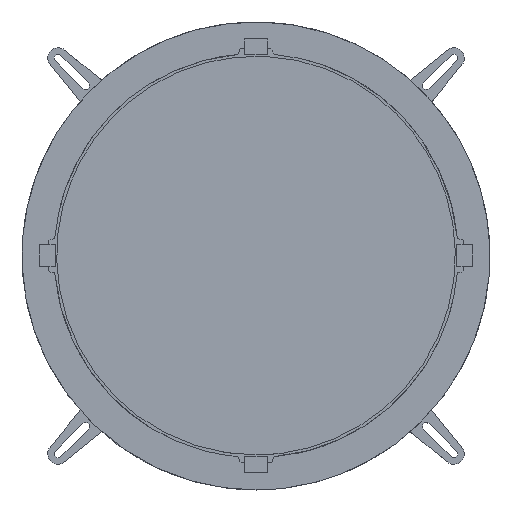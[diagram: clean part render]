
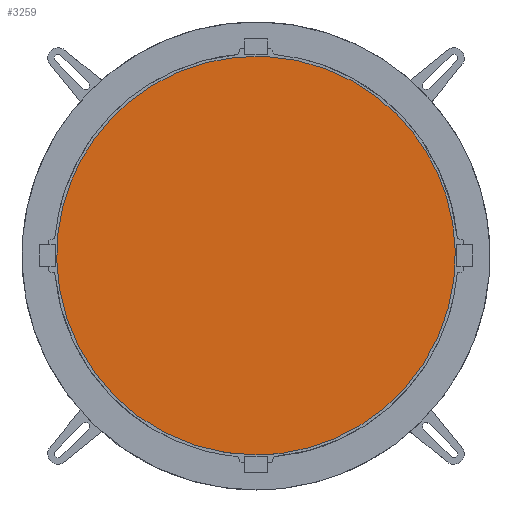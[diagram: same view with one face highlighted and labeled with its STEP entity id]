
A CAD part, top view. The second image highlights one B-rep face of the part: STEP entity #3259.
In plain terms, the highlighted free-form (B-spline) face has degree [1, 1] with [2, 2] control points.
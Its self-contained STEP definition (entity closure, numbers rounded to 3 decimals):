
#3240=CARTESIAN_POINT('',(-345.,345.,298.013));
#3241=CARTESIAN_POINT('',(345.,345.,298.013));
#3242=CARTESIAN_POINT('',(-345.,-345.,298.013));
#3243=CARTESIAN_POINT('',(345.,-345.,298.013));
#3244=B_SPLINE_SURFACE_WITH_KNOTS('',1,1,((#3240,#3241),(#3242,#3243)),.PLANE_SURF.,.F.,.F.,.U.,(2,2),(2,2),(0.,1.),(0.,1.),.UNSPECIFIED.);
#3245=CARTESIAN_POINT('',(0.,-230.,298.013));
#3246=VERTEX_POINT('',#3245);
#3247=CARTESIAN_POINT('',(0.,-230.,298.013));
#3248=CARTESIAN_POINT('',(-398.372,-230.,298.013));
#3249=CARTESIAN_POINT('',(-199.186,115.,298.013));
#3250=CARTESIAN_POINT('',(0.,460.,298.013));
#3251=CARTESIAN_POINT('',(199.186,115.,298.013));
#3252=CARTESIAN_POINT('',(398.372,-230.,298.013));
#3253=CARTESIAN_POINT('',(0.,-230.,298.013));
#3254=(BOUNDED_CURVE()B_SPLINE_CURVE(2,(#3247,#3248,#3249,#3250,#3251,#3252,#3253),.CIRCULAR_ARC.,.T.,.U.)B_SPLINE_CURVE_WITH_KNOTS((3,2,2,3),(0.,0.333,0.667,1.),.UNSPECIFIED.)CURVE()GEOMETRIC_REPRESENTATION_ITEM()RATIONAL_B_SPLINE_CURVE((1.,0.5,1.,0.5,1.,0.5,1.))REPRESENTATION_ITEM(''));
#3255=EDGE_CURVE('',#3246,#3246,#3254,.T.);
#3256=ORIENTED_EDGE('',*,*,#3255,.F.);
#3257=EDGE_LOOP('',(#3256));
#3258=FACE_OUTER_BOUND('',#3257,.T.);
#3259=ADVANCED_FACE('',(#3258),#3244,.T.);
